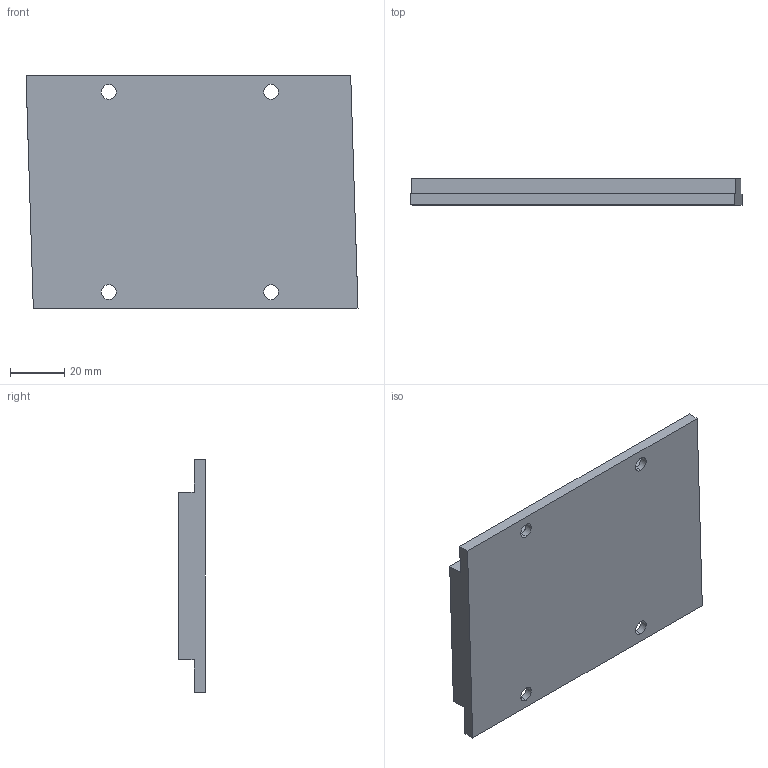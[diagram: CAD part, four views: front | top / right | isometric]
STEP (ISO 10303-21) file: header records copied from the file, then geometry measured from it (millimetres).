
FILE_DESCRIPTION (( 'STEP AP214' ), '1' );
FILE_NAME ('LMSA2S1E.STEP', '2013-07-17T08:19:17', ( ' ' ), ( '' ), 'SwSTEP 2.0', 'SolidWorks 2010', '' );
FILE_SCHEMA (( 'AUTOMOTIVE_DESIGN' ));
Length unit declared in the file: millimetre
Products named in the file (1): LMSA2S1E
Bounding box: 122.7 x 9.7 x 86 mm (x, y, z)
Volume: 83256.4 mm3; surface area: 24551.3 mm2
Topology: 1 solids, 1 shells, 57 faces, 147 edges, 98 vertices
Faces by surface type: plane 30, cylinder 16, bspline 11
Entity records: 2573 total; most frequent: CARTESIAN_POINT 1170, ORIENTED_EDGE 294, DIRECTION 251, EDGE_CURVE 147, VERTEX_POINT 98, VECTOR 93, LINE 93, AXIS2_PLACEMENT_3D 79
